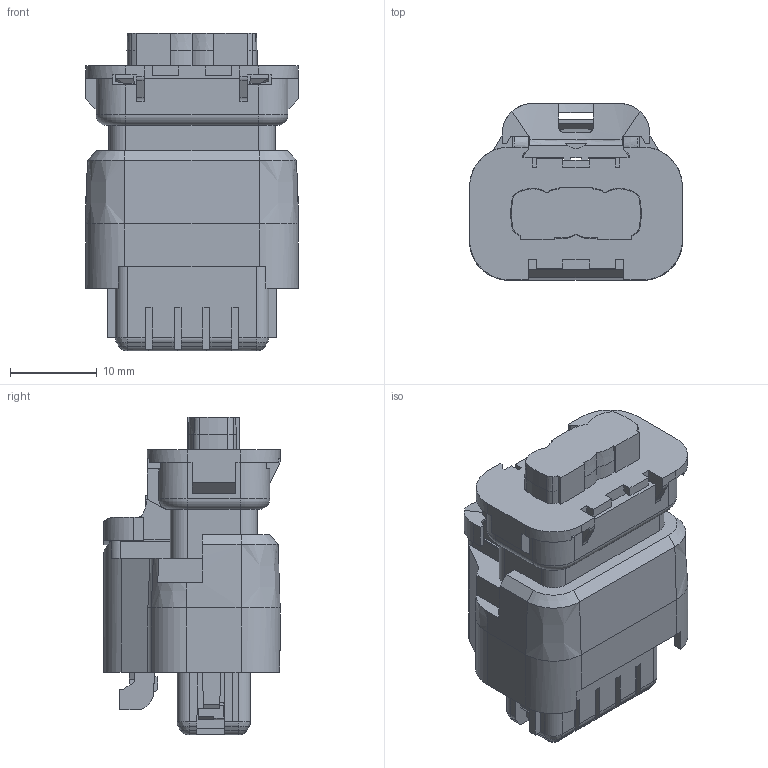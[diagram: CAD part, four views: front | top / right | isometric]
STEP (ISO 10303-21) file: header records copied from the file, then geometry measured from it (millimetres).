
FILE_DESCRIPTION(/* description */ (''),/* implementation_level */ '2;1');
FILE_NAME(/* name */ '33511728_ENV10_03.stp',/* time_stamp */ '2020-07-09T21:38:42+05:00',/* author */ (''),/* organization */ (''),/* preprocessor_version */ 'ST-DEVELOPER v16',/* originating_system */ 'SIEMENS PLM Software NX 11.0',/* authorisation */ '');
FILE_SCHEMA (('AP203_CONFIGURATION_CONTROLLED_3D_DESIGN_OF_MECHANICAL_PARTS_AND_ASSEMBLIES_MIM_LF { 1 0 10303 403 2 1 2}'));
Length unit declared in the file: millimetre
Products named in the file (1): qzs53380227A7l93
Bounding box: 24.5 x 20.3 x 36.55 mm (x, y, z)
Volume: 8726.9 mm3; surface area: 6634.6 mm2
Topology: 1 solids, 1 shells, 771 faces, 2227 edges, 1442 vertices
Faces by surface type: plane 539, cylinder 156, cone 42, bspline 24, torus 8, extrusion 2
Entity records: 27358 total; most frequent: CARTESIAN_POINT 6988, ORIENTED_EDGE 4452, DIRECTION 4002, EDGE_CURVE 2226, VECTOR 1642, LINE 1640, VERTEX_POINT 1442, AXIS2_PLACEMENT_3D 1180
